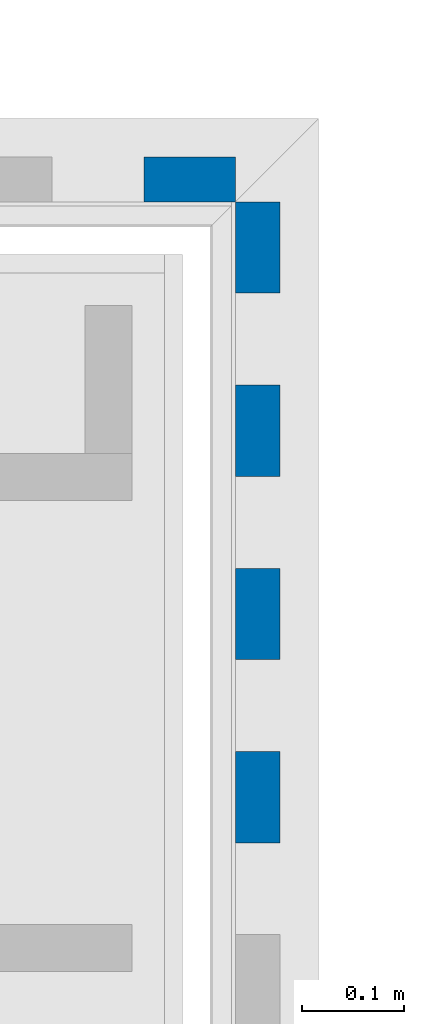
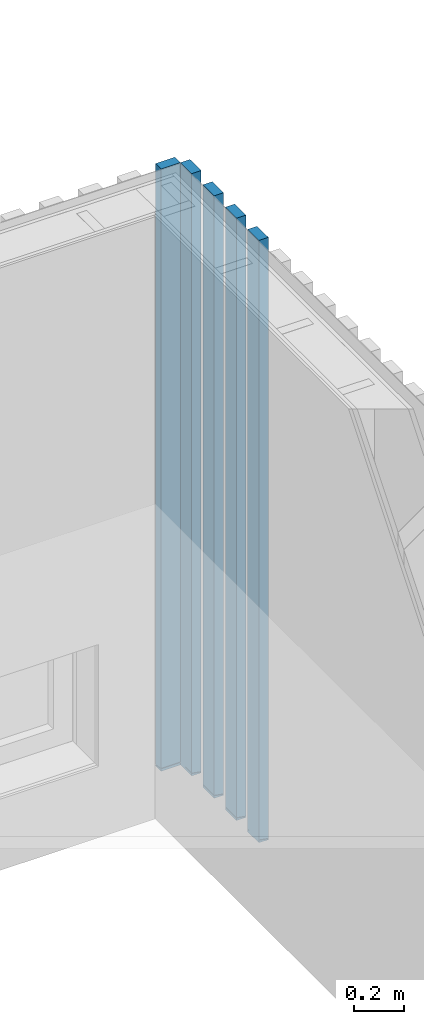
# One storey, part 17 of 99: 5 columns.
"""IFC2X3 building model written with IfcOpenShell, lengths in millimetres."""

from ifc_helpers import new_model, entity, si_unit, converted_unit, derived_unit, money_unit, direction, frame, origin_with_axes, place, context, subcontext, project, spatial, faceted_brep, material, type_object, element, save


model = new_model("IFC2X3")

# Units and contexts
model_context = context("Model", 3, precision=0.01, world=origin_with_axes(), true_north=direction((0.0, 1.0)))
body_context = subcontext(model_context, "Body", "Model", "MODEL_VIEW")
ifc_project = project(units=[si_unit("LENGTHUNIT", "METRE", prefix="MILLI"), si_unit("AREAUNIT", "SQUARE_METRE"), si_unit("VOLUMEUNIT", "CUBIC_METRE"), converted_unit("PLANEANGLEUNIT", "DEGREE", entity("IfcPlaneAngleMeasure", 0.0174532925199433), si_unit("PLANEANGLEUNIT", "RADIAN"), dimensions=[0, 0, 0, 0, 0, 0, 0]), money_unit("EUR"), converted_unit("TIMEUNIT", "Year", entity("IfcTimeMeasure", 31557600.0), si_unit("TIMEUNIT", "SECOND"), dimensions=[0, 0, 1, 0, 0, 0, 0]), si_unit("MASSUNIT", "GRAM", prefix="KILO"), si_unit("THERMODYNAMICTEMPERATUREUNIT", "DEGREE_CELSIUS"), si_unit("LUMINOUSINTENSITYUNIT", "LUMEN"), si_unit("ENERGYUNIT", "JOULE", prefix="MEGA"), derived_unit("THERMALCONDUCTANCEUNIT", [(si_unit("POWERUNIT", "WATT"), 1), (si_unit("LENGTHUNIT", "METRE"), -1), (si_unit("THERMODYNAMICTEMPERATUREUNIT", "KELVIN"), -1)]), derived_unit("SPECIFICHEATCAPACITYUNIT", [(si_unit("ENERGYUNIT", "JOULE"), 1), (si_unit("MASSUNIT", "GRAM", prefix="KILO"), -1), (si_unit("THERMODYNAMICTEMPERATUREUNIT", "KELVIN"), -1)]), derived_unit("MASSDENSITYUNIT", [(si_unit("MASSUNIT", "GRAM", prefix="KILO"), 1), (si_unit("VOLUMEUNIT", "CUBIC_METRE"), -1)])], contexts=[model_context])

# Site, building, storey
site_placement = place(None, origin_with_axes())
site = spatial("IfcSite", under=ifc_project, at=site_placement, Name="Site", CompositionType="ELEMENT")
building_placement = place(site_placement, origin_with_axes())
building = spatial("IfcBuilding", under=site, at=building_placement, Name="Naam gebouw", CompositionType="ELEMENT")
storey_placement = place(building_placement, frame((0.0, 0.0, 7650.0), z_axis=(0.0, 0.0, 1.0), x_axis=(1.0, 0.0, 0.0)))
storey = spatial("IfcBuildingStorey", under=building, at=storey_placement, Name="2e verdieping N", CompositionType="ELEMENT", Elevation=7650.0)

# Columns
ifc_material = material(Name="Metaal - Staal C")
column_type = type_object("IfcColumnType", Name="Metaal - Staal C 90 x 44", PredefinedType="COLUMN")
column_1_placement = place(storey_placement, frame((54233.00000000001, 27805.91242510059, 939.9999999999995), z_axis=(0.0, 0.0, 1.0), x_axis=(-1.0, 0.0, 0.0)))
element("IfcColumn", 1, at=column_1_placement, inside=storey, type_object=column_type, material=ifc_material, Name="_Kolom-x", ObjectType="COLUMN", context=body_context, shape_type="Brep", body=[
    faceted_brep([(45.00000000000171, -21.99999999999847, 0.0), (45.00000000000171, -21.99999999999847, 4.669572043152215), (-45.00000000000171, -21.99999999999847, 4.669572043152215), (-45.00000000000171, -21.99999999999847, 0.0), (45.00000000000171, 21.99999999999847, 0.0), (45.00000000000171, 21.99999999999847, 12.4279591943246), (-45.00000000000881, 22.00000000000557, 12.42795919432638), (-45.00000000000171, 21.99999999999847, 0.0)], [[[0, 1, 2, 3]], [[4, 5, 1, 0]], [[5, 6, 2, 1]], [[3, 2, 6, 7]], [[4, 0, 3, 7]], [[7, 6, 5, 4]]]),
    faceted_brep([(-45.00000000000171, 21.99999999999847, 2960.000000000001), (-45.00000000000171, 22.00000000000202, 14.45881241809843), (-45.00000000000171, -21.99999999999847, 6.70042526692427), (-45.00000000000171, -21.99999999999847, 2960.000000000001), (45.00000000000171, 21.99999999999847, 2960.000000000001), (45.00000000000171, 21.99999999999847, 14.45881241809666), (45.00000000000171, -21.99999999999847, 6.70042526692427), (45.00000000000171, -21.99999999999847, 2960.000000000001)], [[[0, 1, 2, 3]], [[4, 5, 1, 0]], [[5, 6, 2, 1]], [[3, 2, 6, 7]], [[4, 0, 3, 7]], [[7, 6, 5, 4]]]),
])
column_2_placement = place(storey_placement, frame((54300.00000000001, 27738.91242510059, 939.9999999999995), z_axis=(0.0, 0.0, 1.0), x_axis=(0.0, 1.0, 0.0)))
element("IfcColumn", 2, at=column_2_placement, inside=storey, type_object=column_type, material=ifc_material, Name="_Kolom-x", ObjectType="COLUMN", context=body_context, shape_type="Brep", body=[
    faceted_brep([(45.00000000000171, 21.99999999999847, 0.0), (44.99999999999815, 21.99999999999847, 12.4279591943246), (45.00000000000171, -21.99999999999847, 4.669572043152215), (45.00000000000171, -21.99999999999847, 0.0), (-45.00000000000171, 21.99999999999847, 0.0), (-45.00000000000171, 21.99999999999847, 12.4279591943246), (-45.00000000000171, -21.99999999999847, 4.669572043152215), (-45.00000000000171, -21.99999999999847, 0.0)], [[[0, 1, 2, 3]], [[4, 5, 1, 0]], [[5, 6, 2, 1]], [[3, 2, 6, 7]], [[0, 3, 7, 4]], [[7, 6, 5, 4]]]),
    faceted_brep([(-45.00000000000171, -21.99999999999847, 2960.000000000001), (-45.00000000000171, -21.99999999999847, 6.70042526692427), (45.00000000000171, -21.99999999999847, 6.70042526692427), (45.00000000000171, -21.99999999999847, 2960.000000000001), (-45.00000000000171, 21.99999999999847, 2960.000000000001), (-45.00000000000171, 21.99999999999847, 14.45881241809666), (45.00000000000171, 21.99999999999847, 14.45881241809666), (45.00000000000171, 21.99999999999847, 2960.000000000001)], [[[0, 1, 2, 3]], [[4, 5, 1, 0]], [[5, 6, 2, 1]], [[3, 2, 6, 7]], [[7, 4, 0, 3]], [[7, 6, 5, 4]]]),
])
for number, where, z_axis, x_axis, name in (
    (3, (54300.00000000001, 27558.45926054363, 939.9999999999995), (0.0, 0.0, 1.0), (0.0, 1.0, 0.0), "_Kolom-x"),
    (4, (54300.00000000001, 27378.00609598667, 939.9999999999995), (0.0, 0.0, 1.0), (0.0, 1.0, 0.0), "_Kolom-x"),
    (5, (54300.00000000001, 27197.55293142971, 939.9999999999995), (0.0, 0.0, 1.0), (0.0, 1.0, 0.0), "_Kolom-x"),
):
    element("IfcColumn", number, at=place(storey_placement, frame(where, z_axis=z_axis, x_axis=x_axis)), inside=storey, type_object=column_type, material=ifc_material, Name=name, ObjectType="COLUMN", context=body_context, shape_type="Brep", body=[
        faceted_brep([(45.00000000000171, 21.99999999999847, 0.0), (45.00000000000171, 21.99999999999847, 12.4279591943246), (45.00000000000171, -21.99999999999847, 4.669572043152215), (45.00000000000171, -21.99999999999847, 0.0), (-45.00000000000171, 21.99999999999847, 0.0), (-45.00000000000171, 21.99999999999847, 12.4279591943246), (-45.00000000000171, -21.99999999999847, 4.669572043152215), (-45.00000000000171, -21.99999999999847, 0.0)], [[[0, 1, 2, 3]], [[4, 5, 1, 0]], [[5, 6, 2, 1]], [[3, 2, 6, 7]], [[0, 3, 7, 4]], [[7, 6, 5, 4]]]),
        faceted_brep([(-45.00000000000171, -21.99999999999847, 2960.000000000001), (-45.00000000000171, -21.99999999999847, 6.70042526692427), (45.00000000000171, -21.99999999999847, 6.70042526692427), (45.00000000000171, -21.99999999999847, 2960.000000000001), (-45.00000000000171, 21.99999999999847, 2960.000000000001), (-45.00000000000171, 21.99999999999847, 14.45881241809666), (45.00000000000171, 21.99999999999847, 14.45881241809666), (45.00000000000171, 21.99999999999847, 2960.000000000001)], [[[0, 1, 2, 3]], [[4, 5, 1, 0]], [[5, 6, 2, 1]], [[3, 2, 6, 7]], [[7, 4, 0, 3]], [[7, 6, 5, 4]]]),
    ])

save(model, "model.ifc")
